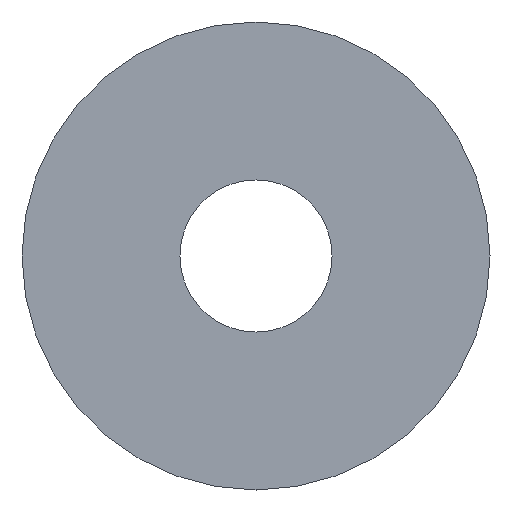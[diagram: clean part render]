
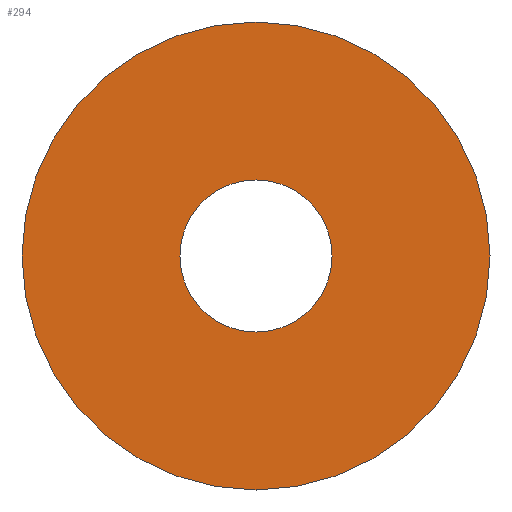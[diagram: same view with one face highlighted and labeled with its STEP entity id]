
A CAD part, front view. The second image highlights one B-rep face of the part: STEP entity #294.
In plain terms, the highlighted planar face has unit normal (0, -1, 0).
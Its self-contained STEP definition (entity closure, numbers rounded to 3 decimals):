
#2 = DIRECTION ( 'NONE',  ( -1., 0., 0. ) ) ;
#3 = AXIS2_PLACEMENT_3D ( 'NONE', #188, #124, #10 ) ;
#5 = DIRECTION ( 'NONE',  ( -1., 0., 0. ) ) ;
#6 = ORIENTED_EDGE ( 'NONE', *, *, #279, .T. ) ;
#10 = DIRECTION ( 'NONE',  ( -1., 0., 0. ) ) ;
#12 = EDGE_CURVE ( 'NONE', #252, #205, #268, .T. ) ;
#18 = AXIS2_PLACEMENT_3D ( 'NONE', #223, #275, #95 ) ;
#36 = EDGE_LOOP ( 'NONE', ( #299, #6 ) ) ;
#39 = ORIENTED_EDGE ( 'NONE', *, *, #56, .F. ) ;
#41 = EDGE_CURVE ( 'NONE', #225, #111, #182, .T. ) ;
#44 = ORIENTED_EDGE ( 'NONE', *, *, #41, .F. ) ;
#56 = EDGE_CURVE ( 'NONE', #111, #225, #102, .T. ) ;
#57 = DIRECTION ( 'NONE',  ( -1., 0., 0. ) ) ;
#59 = CARTESIAN_POINT ( 'NONE',  ( 2., 0., 0. ) ) ;
#63 = EDGE_LOOP ( 'NONE', ( #39, #44 ) ) ;
#73 = FACE_OUTER_BOUND ( 'NONE', #63, .T. ) ;
#86 = CARTESIAN_POINT ( 'NONE',  ( -0.65, 0., 0. ) ) ;
#91 = AXIS2_PLACEMENT_3D ( 'NONE', #145, #121, #5 ) ;
#95 = DIRECTION ( 'NONE',  ( -1., 0., 0. ) ) ;
#102 = CIRCLE ( 'NONE', #91, 2. ) ;
#111 = VERTEX_POINT ( 'NONE', #119 ) ;
#119 = CARTESIAN_POINT ( 'NONE',  ( -2., 0., 0. ) ) ;
#121 = DIRECTION ( 'NONE',  ( 0., 1., 0. ) ) ;
#124 = DIRECTION ( 'NONE',  ( 0., 1., 0. ) ) ;
#145 = CARTESIAN_POINT ( 'NONE',  ( 0., 0., 0. ) ) ;
#155 = AXIS2_PLACEMENT_3D ( 'NONE', #59, #238, #57 ) ;
#158 = FACE_BOUND ( 'NONE', #36, .T. ) ;
#179 = CARTESIAN_POINT ( 'NONE',  ( 2., 0., 0. ) ) ;
#182 = CIRCLE ( 'NONE', #229, 2. ) ;
#188 = CARTESIAN_POINT ( 'NONE',  ( 0., 0., 0. ) ) ;
#197 = DIRECTION ( 'NONE',  ( 0., 1., 0. ) ) ;
#205 = VERTEX_POINT ( 'NONE', #262 ) ;
#208 = CIRCLE ( 'NONE', #3, 0.65 ) ;
#223 = CARTESIAN_POINT ( 'NONE',  ( 0., 0., 0. ) ) ;
#225 = VERTEX_POINT ( 'NONE', #179 ) ;
#229 = AXIS2_PLACEMENT_3D ( 'NONE', #249, #197, #2 ) ;
#238 = DIRECTION ( 'NONE',  ( 0., 1., 0. ) ) ;
#249 = CARTESIAN_POINT ( 'NONE',  ( 0., 0., 0. ) ) ;
#252 = VERTEX_POINT ( 'NONE', #86 ) ;
#262 = CARTESIAN_POINT ( 'NONE',  ( 0.65, 0., 0. ) ) ;
#263 = PLANE ( 'NONE',  #155 ) ;
#268 = CIRCLE ( 'NONE', #18, 0.65 ) ;
#275 = DIRECTION ( 'NONE',  ( 0., 1., 0. ) ) ;
#279 = EDGE_CURVE ( 'NONE', #205, #252, #208, .T. ) ;
#294 = ADVANCED_FACE ( 'NONE', ( #73, #158 ), #263, .F. ) ;
#299 = ORIENTED_EDGE ( 'NONE', *, *, #12, .T. ) ;
